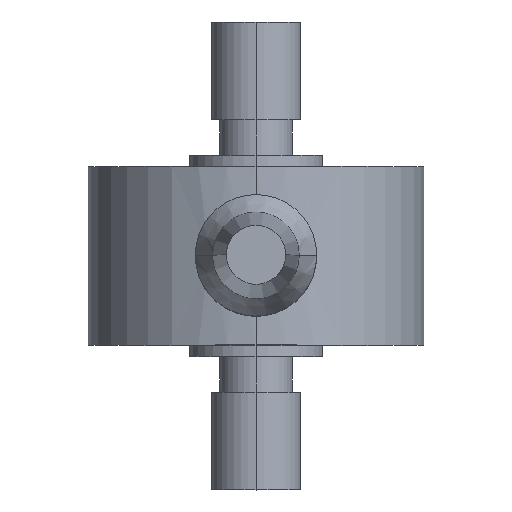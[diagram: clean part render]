
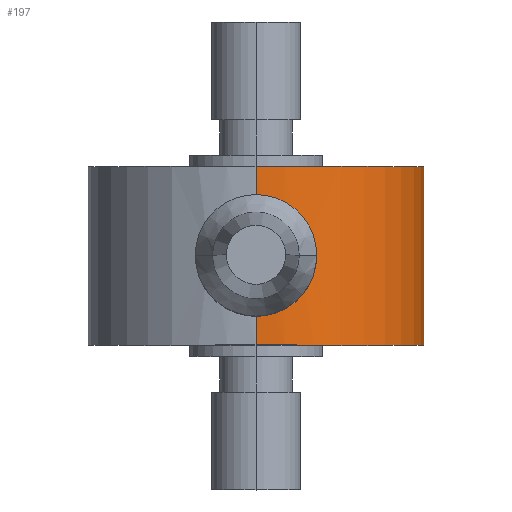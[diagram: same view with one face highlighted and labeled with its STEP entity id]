
A CAD part, top view. The second image highlights one B-rep face of the part: STEP entity #197.
In plain terms, the highlighted cylindrical face has radius 11.938 mm (diameter 23.876 mm), a partial arc.
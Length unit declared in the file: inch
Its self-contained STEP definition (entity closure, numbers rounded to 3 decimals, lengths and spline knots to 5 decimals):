
#1 = B_SPLINE_CURVE_WITH_KNOTS ( 'NONE', 3,
 ( #668, #639, #651, #652, #616, #634, #653, #658, #659, #664, #667, #674, #669, #675, #615, #619, #626, #620 ),
 .UNSPECIFIED., .F., .F.,
 ( 4, 2, 2, 2, 2, 2, 2, 2, 4 ),
 ( 0., 0.00068, 0.00136, 0.00204, 0.00272, 0.00339, 0.00407, 0.00475, 0.00543 ),
 .UNSPECIFIED. ) ;
#4 = B_SPLINE_CURVE_WITH_KNOTS ( 'NONE', 3,
 ( #817, #818, #819, #821, #775, #777, #865, #842, #836, #871, #866, #844, #867, #850, #846, #860 ),
 .UNSPECIFIED., .F., .F.,
 ( 4, 2, 2, 2, 2, 2, 2, 4 ),
 ( 0.01629, 0.01696, 0.01764, 0.019, 0.01968, 0.02036, 0.02104, 0.02171 ),
 .UNSPECIFIED. ) ;
#8 = EDGE_CURVE ( 'NONE', #603, #621, #1, .T. ) ;
#19 = EDGE_CURVE ( 'NONE', #621, #646, #447, .T. ) ;
#27 = EDGE_CURVE ( 'NONE', #633, #630, #464, .T. ) ;
#29 = EDGE_CURVE ( 'NONE', #630, #666, #465, .T. ) ;
#53 = EDGE_CURVE ( 'NONE', #640, #603, #4, .T. ) ;
#55 = EDGE_CURVE ( 'NONE', #633, #640, #483, .T. ) ;
#56 = EDGE_CURVE ( 'NONE', #646, #666, #485, .T. ) ;
#86 = AXIS2_PLACEMENT_3D ( 'NONE', #676, #677, #678 ) ;
#110 = AXIS2_PLACEMENT_3D ( 'NONE', #856, #837, #862 ) ;
#166 = AXIS2_PLACEMENT_3D ( 'NONE', #978, #980, #976 ) ;
#197 = ADVANCED_FACE ( 'NONE', ( #581 ), #565, .T. ) ;
#232 = ORIENTED_EDGE ( 'NONE', *, *, #55, .T. ) ;
#244 = ORIENTED_EDGE ( 'NONE', *, *, #19, .T. ) ;
#255 = ORIENTED_EDGE ( 'NONE', *, *, #56, .T. ) ;
#266 = ORIENTED_EDGE ( 'NONE', *, *, #27, .F. ) ;
#270 = ORIENTED_EDGE ( 'NONE', *, *, #29, .F. ) ;
#275 = ORIENTED_EDGE ( 'NONE', *, *, #53, .T. ) ;
#287 = ORIENTED_EDGE ( 'NONE', *, *, #8, .T. ) ;
#412 = EDGE_LOOP ( 'NONE', ( #266, #232, #275, #287, #244, #255, #270 ) ) ;
#425 = VECTOR ( 'NONE', #767, 39.37008 ) ;
#447 = LINE ( 'NONE', #716, #448 ) ;
#448 = VECTOR ( 'NONE', #700, 39.37008 ) ;
#464 = CIRCLE ( 'NONE', #86, 0.47 ) ;
#465 = LINE ( 'NONE', #748, #425 ) ;
#470 = VECTOR ( 'NONE', #852, 39.37008 ) ;
#483 = LINE ( 'NONE', #858, #470 ) ;
#485 = CIRCLE ( 'NONE', #110, 0.47 ) ;
#565 = CYLINDRICAL_SURFACE ( 'NONE', #166, 0.47 ) ;
#581 = FACE_OUTER_BOUND ( 'NONE', #412, .T. ) ;
#603 = VERTEX_POINT ( 'NONE', #1073 ) ;
#615 = CARTESIAN_POINT ( 'NONE',  ( 0.03538, 0.11838, 0.46875 ) ) ;
#616 = CARTESIAN_POINT ( 'NONE',  ( 0.12898, 0.20596, 0.45197 ) ) ;
#619 = CARTESIAN_POINT ( 'NONE',  ( 0.01779, 0.11487, 0.46975 ) ) ;
#620 = CARTESIAN_POINT ( 'NONE',  ( 0., 0.114, 0.47 ) ) ;
#621 = VERTEX_POINT ( 'NONE', #1057 ) ;
#626 = CARTESIAN_POINT ( 'NONE',  ( 0.00893, 0.114, 0.47 ) ) ;
#630 = VERTEX_POINT ( 'NONE', #1069 ) ;
#633 = VERTEX_POINT ( 'NONE', #1021 ) ;
#634 = CARTESIAN_POINT ( 'NONE',  ( 0.12213, 0.18951, 0.45387 ) ) ;
#639 = CARTESIAN_POINT ( 'NONE',  ( 0.136, 0.24096, 0.44989 ) ) ;
#640 = VERTEX_POINT ( 'NONE', #1087 ) ;
#646 = VERTEX_POINT ( 'NONE', #1090 ) ;
#651 = CARTESIAN_POINT ( 'NONE',  ( 0.13511, 0.23208, 0.45017 ) ) ;
#652 = CARTESIAN_POINT ( 'NONE',  ( 0.13162, 0.21463, 0.4512 ) ) ;
#653 = CARTESIAN_POINT ( 'NONE',  ( 0.11795, 0.18172, 0.45499 ) ) ;
#658 = CARTESIAN_POINT ( 'NONE',  ( 0.10808, 0.16697, 0.45743 ) ) ;
#659 = CARTESIAN_POINT ( 'NONE',  ( 0.10237, 0.16003, 0.45876 ) ) ;
#664 = CARTESIAN_POINT ( 'NONE',  ( 0.08988, 0.14756, 0.46137 ) ) ;
#666 = VERTEX_POINT ( 'NONE', #1103 ) ;
#667 = CARTESIAN_POINT ( 'NONE',  ( 0.08306, 0.14194, 0.46266 ) ) ;
#668 = CARTESIAN_POINT ( 'NONE',  ( 0.136, 0.25, 0.44989 ) ) ;
#669 = CARTESIAN_POINT ( 'NONE',  ( 0.06036, 0.12781, 0.46618 ) ) ;
#674 = CARTESIAN_POINT ( 'NONE',  ( 0.0682, 0.132, 0.46509 ) ) ;
#675 = CARTESIAN_POINT ( 'NONE',  ( 0.04401, 0.12101, 0.46801 ) ) ;
#676 = CARTESIAN_POINT ( 'NONE',  ( 0., 0.5, 0. ) ) ;
#677 = DIRECTION ( 'NONE',  ( 0., 1., 0. ) ) ;
#678 = DIRECTION ( 'NONE',  ( 0., 0., 1. ) ) ;
#700 = DIRECTION ( 'NONE',  ( 0., -1., 0. ) ) ;
#716 = CARTESIAN_POINT ( 'NONE',  ( 0., 0.5, 0.47 ) ) ;
#748 = CARTESIAN_POINT ( 'NONE',  ( 0., 0.5, -0.47 ) ) ;
#767 = DIRECTION ( 'NONE',  ( 0., -1., 0. ) ) ;
#775 = CARTESIAN_POINT ( 'NONE',  ( 0.04401, 0.37899, 0.46801 ) ) ;
#777 = CARTESIAN_POINT ( 'NONE',  ( 0.06859, 0.36877, 0.46526 ) ) ;
#817 = CARTESIAN_POINT ( 'NONE',  ( 0., 0.386, 0.47 ) ) ;
#818 = CARTESIAN_POINT ( 'NONE',  ( 0.00896, 0.386, 0.47 ) ) ;
#819 = CARTESIAN_POINT ( 'NONE',  ( 0.01782, 0.38512, 0.46974 ) ) ;
#821 = CARTESIAN_POINT ( 'NONE',  ( 0.03533, 0.38163, 0.46875 ) ) ;
#836 = CARTESIAN_POINT ( 'NONE',  ( 0.10808, 0.33303, 0.45743 ) ) ;
#837 = DIRECTION ( 'NONE',  ( 0., 1., 0. ) ) ;
#842 = CARTESIAN_POINT ( 'NONE',  ( 0.10238, 0.33996, 0.45876 ) ) ;
#844 = CARTESIAN_POINT ( 'NONE',  ( 0.12896, 0.2941, 0.45198 ) ) ;
#846 = CARTESIAN_POINT ( 'NONE',  ( 0.136, 0.25904, 0.44989 ) ) ;
#850 = CARTESIAN_POINT ( 'NONE',  ( 0.13511, 0.26793, 0.45017 ) ) ;
#852 = DIRECTION ( 'NONE',  ( 0., -1., 0. ) ) ;
#856 = CARTESIAN_POINT ( 'NONE',  ( 0., 0., 0. ) ) ;
#858 = CARTESIAN_POINT ( 'NONE',  ( 0., 0.5, 0.47 ) ) ;
#860 = CARTESIAN_POINT ( 'NONE',  ( 0.136, 0.25, 0.44989 ) ) ;
#862 = DIRECTION ( 'NONE',  ( 0., 0., 1. ) ) ;
#865 = CARTESIAN_POINT ( 'NONE',  ( 0.08367, 0.35865, 0.46267 ) ) ;
#866 = CARTESIAN_POINT ( 'NONE',  ( 0.12213, 0.31049, 0.45387 ) ) ;
#867 = CARTESIAN_POINT ( 'NONE',  ( 0.13161, 0.28542, 0.4512 ) ) ;
#871 = CARTESIAN_POINT ( 'NONE',  ( 0.11796, 0.31827, 0.45499 ) ) ;
#976 = DIRECTION ( 'NONE',  ( 0., 0., -1. ) ) ;
#978 = CARTESIAN_POINT ( 'NONE',  ( 0., 0.5, 0. ) ) ;
#980 = DIRECTION ( 'NONE',  ( 0., -1., 0. ) ) ;
#1021 = CARTESIAN_POINT ( 'NONE',  ( 0., 0.5, 0.47 ) ) ;
#1057 = CARTESIAN_POINT ( 'NONE',  ( 0., 0.114, 0.47 ) ) ;
#1069 = CARTESIAN_POINT ( 'NONE',  ( 0., 0.5, -0.47 ) ) ;
#1073 = CARTESIAN_POINT ( 'NONE',  ( 0.136, 0.25, 0.44989 ) ) ;
#1087 = CARTESIAN_POINT ( 'NONE',  ( 0., 0.386, 0.47 ) ) ;
#1090 = CARTESIAN_POINT ( 'NONE',  ( 0., 0., 0.47 ) ) ;
#1103 = CARTESIAN_POINT ( 'NONE',  ( 0., 0., -0.47 ) ) ;
